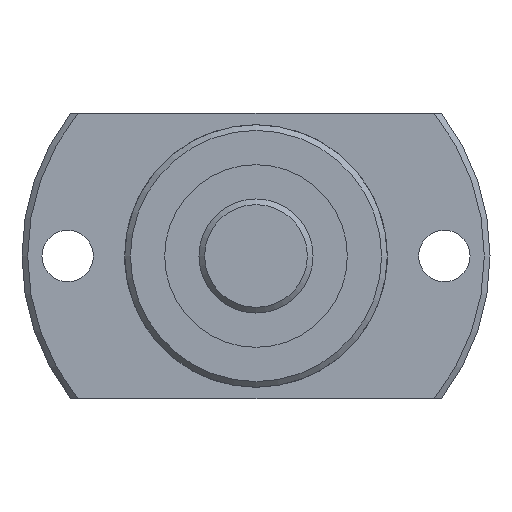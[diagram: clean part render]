
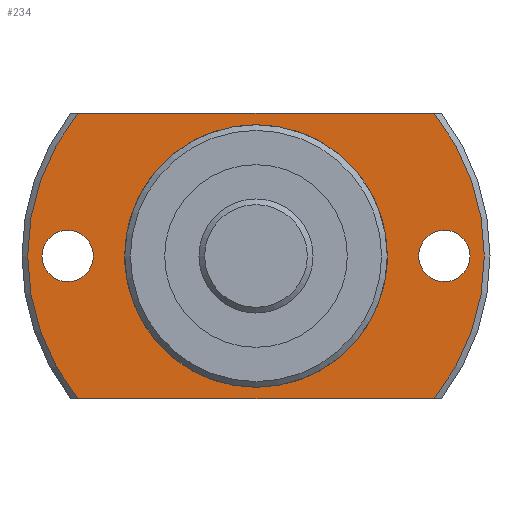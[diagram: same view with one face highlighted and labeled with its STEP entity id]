
A CAD part, left-side view. The second image highlights one B-rep face of the part: STEP entity #234.
In plain terms, the highlighted planar face has unit normal (-1, 0, 0).
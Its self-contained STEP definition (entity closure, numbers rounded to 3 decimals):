
#234 = ADVANCED_FACE( '', ( #483, #484, #485, #486 ), #487, .F. );
#483 = FACE_OUTER_BOUND( '', #747, .T. );
#484 = FACE_BOUND( '', #748, .T. );
#485 = FACE_BOUND( '', #749, .T. );
#486 = FACE_BOUND( '', #750, .T. );
#487 = PLANE( '', #751 );
#747 = EDGE_LOOP( '', ( #1224, #1225, #1226, #1227 ) );
#748 = EDGE_LOOP( '', ( #1228 ) );
#749 = EDGE_LOOP( '', ( #1229 ) );
#750 = EDGE_LOOP( '', ( #1230 ) );
#751 = AXIS2_PLACEMENT_3D( '', #1231, #1232, #1233 );
#1224 = ORIENTED_EDGE( '', *, *, #1521, .F. );
#1225 = ORIENTED_EDGE( '', *, *, #1549, .T. );
#1226 = ORIENTED_EDGE( '', *, *, #1503, .F. );
#1227 = ORIENTED_EDGE( '', *, *, #1496, .T. );
#1228 = ORIENTED_EDGE( '', *, *, #1443, .T. );
#1229 = ORIENTED_EDGE( '', *, *, #1574, .T. );
#1230 = ORIENTED_EDGE( '', *, *, #1594, .T. );
#1231 = CARTESIAN_POINT( '', ( 19., 11.3, 0. ) );
#1232 = DIRECTION( '', ( 1., 0., 0. ) );
#1233 = DIRECTION( '', ( 0., 0., -1. ) );
#1443 = EDGE_CURVE( '', #1683, #1683, #1684, .T. );
#1496 = EDGE_CURVE( '', #1773, #1771, #1774, .T. );
#1503 = EDGE_CURVE( '', #1773, #1784, #1785, .T. );
#1521 = EDGE_CURVE( '', #1812, #1771, #1813, .T. );
#1549 = EDGE_CURVE( '', #1812, #1784, #1852, .T. );
#1574 = EDGE_CURVE( '', #1886, #1886, #1887, .T. );
#1594 = EDGE_CURVE( '', #1912, #1912, #1913, .T. );
#1683 = VERTEX_POINT( '', #2017 );
#1684 = CIRCLE( '', #2018, 2.25 );
#1771 = VERTEX_POINT( '', #2154 );
#1773 = VERTEX_POINT( '', #2159 );
#1774 = LINE( '', #2160, #2161 );
#1784 = VERTEX_POINT( '', #2178 );
#1785 = CIRCLE( '', #2179, 20. );
#1812 = VERTEX_POINT( '', #2218 );
#1813 = CIRCLE( '', #2219, 20. );
#1852 = LINE( '', #2268, #2269 );
#1886 = VERTEX_POINT( '', #2320 );
#1887 = CIRCLE( '', #2321, 2.25 );
#1912 = VERTEX_POINT( '', #2371 );
#1913 = CIRCLE( '', #2372, 11.3 );
#2017 = CARTESIAN_POINT( '', ( 19., 16.5, -2.25 ) );
#2018 = AXIS2_PLACEMENT_3D( '', #2468, #2469, #2470 );
#2154 = CARTESIAN_POINT( '', ( 19., 15.612, 12.5 ) );
#2159 = CARTESIAN_POINT( '', ( 19., -15.612, 12.5 ) );
#2160 = CARTESIAN_POINT( '', ( 19., 11.3, 12.5 ) );
#2161 = VECTOR( '', #2539, 1000. );
#2178 = CARTESIAN_POINT( '', ( 19., -15.612, -12.5 ) );
#2179 = AXIS2_PLACEMENT_3D( '', #2544, #2545, #2546 );
#2218 = CARTESIAN_POINT( '', ( 19., 15.612, -12.5 ) );
#2219 = AXIS2_PLACEMENT_3D( '', #2565, #2566, #2567 );
#2268 = CARTESIAN_POINT( '', ( 19., 11.3, -12.5 ) );
#2269 = VECTOR( '', #2608, 1000. );
#2320 = CARTESIAN_POINT( '', ( 19., -16.5, -2.25 ) );
#2321 = AXIS2_PLACEMENT_3D( '', #2632, #2633, #2634 );
#2371 = CARTESIAN_POINT( '', ( 19., 0., -11.3 ) );
#2372 = AXIS2_PLACEMENT_3D( '', #2655, #2656, #2657 );
#2468 = CARTESIAN_POINT( '', ( 19., 16.5, 0. ) );
#2469 = DIRECTION( '', ( 1., 0., 0. ) );
#2470 = DIRECTION( '', ( 0., 0., -1. ) );
#2539 = DIRECTION( '', ( 0., 1., 0. ) );
#2544 = CARTESIAN_POINT( '', ( 19., 0., 0. ) );
#2545 = DIRECTION( '', ( 1., 0., 0. ) );
#2546 = DIRECTION( '', ( 0., 0., -1. ) );
#2565 = CARTESIAN_POINT( '', ( 19., 0., 0. ) );
#2566 = DIRECTION( '', ( 1., 0., 0. ) );
#2567 = DIRECTION( '', ( 0., 0., -1. ) );
#2608 = DIRECTION( '', ( 0., -1., 0. ) );
#2632 = CARTESIAN_POINT( '', ( 19., -16.5, 0. ) );
#2633 = DIRECTION( '', ( 1., 0., 0. ) );
#2634 = DIRECTION( '', ( 0., 0., -1. ) );
#2655 = CARTESIAN_POINT( '', ( 19., 0., 0. ) );
#2656 = DIRECTION( '', ( 1., 0., 0. ) );
#2657 = DIRECTION( '', ( 0., 0., -1. ) );
